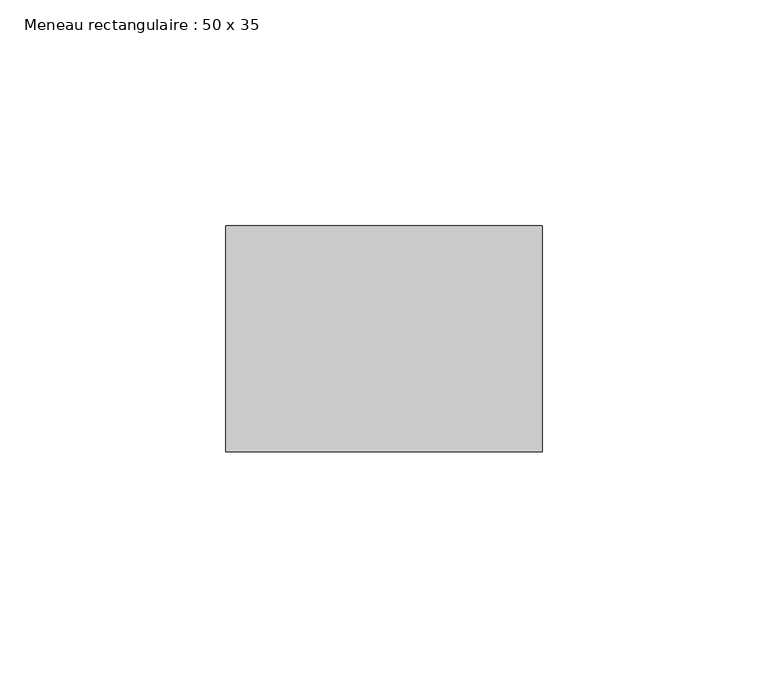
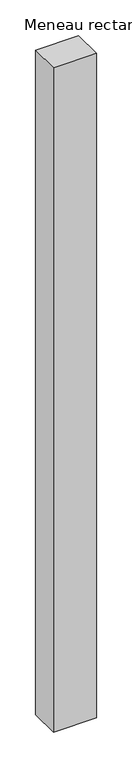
"""IFC4 building model written with IfcOpenShell, lengths in millimetres: member geometry, Meneau rectangulaire : 50 x 35."""

from ifc_helpers import new_model, si_unit, frame, origin, place, context, project, spatial, polyline, outline, extrude, source, transform, mapped, element, save


def meneau_rectangulaire_50_x_35_f638334d(model_context):
    return source(origin(), model_context, "Body", "SweptSolid", [
        extrude(outline(polyline([(35.0, 0.0), (35.0, -50.0), (-35.0, -50.0), (-35.0, 0.0), (35.0, 0.0)])), frame((0.0, 0.0, -1136.7311177), z_axis=(0.0, 0.0, 1.0), x_axis=(1.0, 0.0, 0.0)), (0.0, 0.0, 1.0), 1136.7311177),
    ])


if __name__ == "__main__":
    model = new_model("IFC4")
    model_context = context("Model", 3, world=origin())
    ifc_project = project(units=[si_unit("LENGTHUNIT", "METRE", prefix="MILLI")], contexts=[model_context])
    site = spatial("IfcSite", under=ifc_project)
    building = spatial("IfcBuilding", under=site)
    placement = place(None, origin())
    meneau_rectangulaire_50_x_35_shape = meneau_rectangulaire_50_x_35_f638334d(model_context)
    element("IfcMember", 1, ObjectType="Meneau rectangulaire : 50 x 35", at=placement, inside=building, context=model_context, shape_type="MappedRepresentation", body=[
        mapped(meneau_rectangulaire_50_x_35_shape, transform((0.0, 0.0, 0.0), x_axis=(1.0, 0.0, 0.0), y_axis=(0.0, 1.0, 0.0), z_axis=(0.0, 0.0, 1.0))),
    ])
    save(model, "model.ifc")
